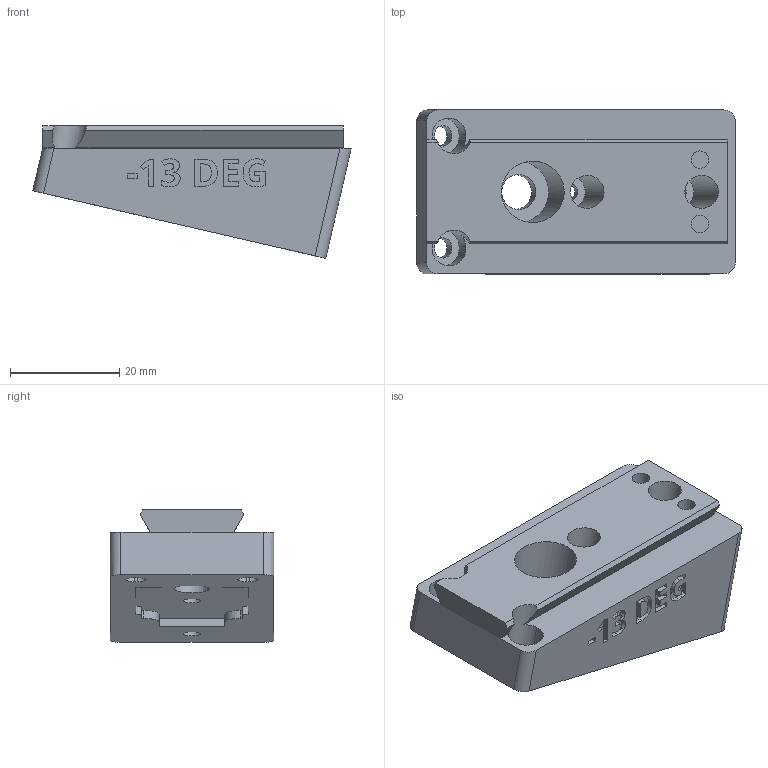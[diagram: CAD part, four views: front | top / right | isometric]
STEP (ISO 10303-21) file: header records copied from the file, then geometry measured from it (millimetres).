
FILE_DESCRIPTION(/* description */ ('STEP AP242 Edition 2','CAx-IF Rec.Pracs.---Representation and Presentation of Product Manufacturing Information (PMI)---4.0---2014-10-13','CAx-IF Rec.Pracs.---3D Tessellated Geometry---0.4---2014-09-14','2;1','CAx-IF Rec.Pracs.---User Defined Attributes---1.5---2016-08-15'),/* implementation_level */ '2;1');
FILE_NAME(/* name */ 'Camera Wedges - CAMERA MOUNTING WEDGE, NEG, -13 DEG',/* time_stamp */ '2026-08-11T00:06:20Z',/* author */ (''),/* organization */ (''),/* preprocessor_version */ 'ST-DEVELOPER v20',/* originating_system */ 'ONSHAPE BY PTC INC, 1.219',/* authorisation */ ' ');
FILE_SCHEMA (('AP242_MANAGED_MODEL_BASED_3D_ENGINEERING_MIM_LF { 1 0 10303 442 3 1 4 }'));
Length unit declared in the file: metre
Products named in the file (1): CAMERA MOUNTING WEDGE, NEG, -13 DEG
Bounding box: 58.25 x 30 x 24.27 mm (x, y, z)
Volume: 23801.6 mm3; surface area: 8316.3 mm2
Topology: 1 solids, 1 shells, 259 faces, 709 edges, 472 vertices
Faces by surface type: plane 151, bspline 66, cylinder 42
Full cylindrical faces by diameter (mm): 3.2 x4, 6 x2, 6.4 x1, 11.2 x1
Entity records: 8389 total; most frequent: CARTESIAN_POINT 2159, ORIENTED_EDGE 1402, DIRECTION 1053, EDGE_CURVE 701, LINE 473, VECTOR 473, VERTEX_POINT 472, EDGE_LOOP 297
